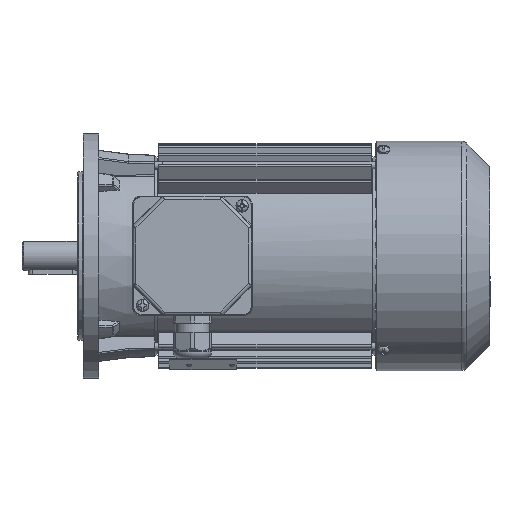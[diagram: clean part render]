
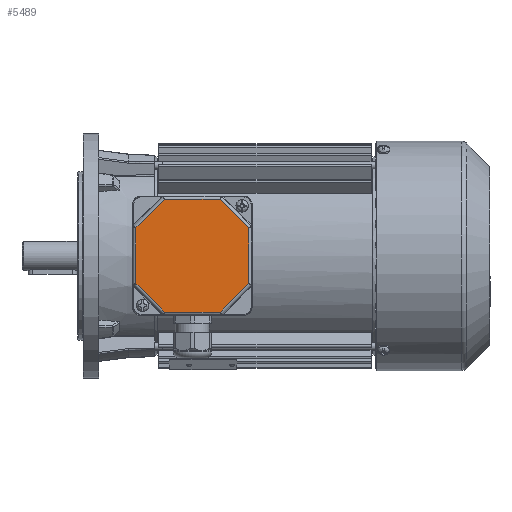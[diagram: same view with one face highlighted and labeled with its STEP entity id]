
A CAD part, top view. The second image highlights one B-rep face of the part: STEP entity #5489.
In plain terms, the highlighted planar face has unit normal (0, 0, 1).
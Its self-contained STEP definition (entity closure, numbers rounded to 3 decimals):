
#5489 = ADVANCED_FACE( '', ( #12012 ), #12013, .T. );
#12012 = FACE_OUTER_BOUND( '', #37611, .T. );
#12013 = PLANE( '', #37612 );
#37611 = EDGE_LOOP( '', ( #72902, #72903, #72904, #72905, #72906, #72907, #72908, #72909 ) );
#37612 = AXIS2_PLACEMENT_3D( '', #72910, #72911, #72912 );
#72902 = ORIENTED_EDGE( '', *, *, #85697, .T. );
#72903 = ORIENTED_EDGE( '', *, *, #90208, .T. );
#72904 = ORIENTED_EDGE( '', *, *, #89331, .T. );
#72905 = ORIENTED_EDGE( '', *, *, #88234, .T. );
#72906 = ORIENTED_EDGE( '', *, *, #90209, .T. );
#72907 = ORIENTED_EDGE( '', *, *, #90210, .T. );
#72908 = ORIENTED_EDGE( '', *, *, #88094, .T. );
#72909 = ORIENTED_EDGE( '', *, *, #90211, .T. );
#72910 = CARTESIAN_POINT( '', ( -39., 39., 12. ) );
#72911 = DIRECTION( '', ( 0., 0., 1. ) );
#72912 = DIRECTION( '', ( 1., 0., 0. ) );
#85697 = EDGE_CURVE( '', #96886, #96884, #96887, .F. );
#88094 = EDGE_CURVE( '', #100921, #99242, #100922, .F. );
#88234 = EDGE_CURVE( '', #101134, #101135, #101136, .T. );
#89331 = EDGE_CURVE( '', #102750, #101134, #102751, .F. );
#90208 = EDGE_CURVE( '', #96884, #102750, #103969, .T. );
#90209 = EDGE_CURVE( '', #101135, #103970, #103971, .F. );
#90210 = EDGE_CURVE( '', #103970, #100921, #103972, .T. );
#90211 = EDGE_CURVE( '', #99242, #96886, #103973, .T. );
#96884 = VERTEX_POINT( '', #115051 );
#96886 = VERTEX_POINT( '', #115053 );
#96887 = LINE( '', #115054, #115055 );
#99242 = VERTEX_POINT( '', #120604 );
#100921 = VERTEX_POINT( '', #126837 );
#100922 = LINE( '', #126838, #126839 );
#101134 = VERTEX_POINT( '', #127625 );
#101135 = VERTEX_POINT( '', #127626 );
#101136 = LINE( '', #127627, #127628 );
#102750 = VERTEX_POINT( '', #133912 );
#102751 = LINE( '', #133913, #133914 );
#103969 = LINE( '', #138921, #138922 );
#103970 = VERTEX_POINT( '', #138923 );
#103971 = LINE( '', #138924, #138925 );
#103972 = LINE( '', #138926, #138927 );
#103973 = LINE( '', #138928, #138929 );
#115051 = CARTESIAN_POINT( '', ( 36.825, 18.255, 12. ) );
#115053 = CARTESIAN_POINT( '', ( 36.825, -18.255, 12. ) );
#115054 = CARTESIAN_POINT( '', ( 36.825, 19.069, 12. ) );
#115055 = VECTOR( '', #153107, 1000. );
#120604 = CARTESIAN_POINT( '', ( 18.255, -36.825, 12. ) );
#126837 = CARTESIAN_POINT( '', ( -18.255, -36.825, 12. ) );
#126838 = CARTESIAN_POINT( '', ( 19.069, -36.825, 12. ) );
#126839 = VECTOR( '', #156300, 1000. );
#127625 = CARTESIAN_POINT( '', ( -18.255, 36.825, 12. ) );
#127626 = CARTESIAN_POINT( '', ( -36.825, 18.255, 12. ) );
#127627 = CARTESIAN_POINT( '', ( -37.401, 17.679, 12. ) );
#127628 = VECTOR( '', #156460, 1000. );
#133912 = CARTESIAN_POINT( '', ( 18.255, 36.825, 12. ) );
#133913 = CARTESIAN_POINT( '', ( -19.069, 36.825, 12. ) );
#133914 = VECTOR( '', #157592, 1000. );
#138921 = CARTESIAN_POINT( '', ( 17.679, 37.401, 12. ) );
#138922 = VECTOR( '', #158441, 1000. );
#138923 = CARTESIAN_POINT( '', ( -36.825, -18.255, 12. ) );
#138924 = CARTESIAN_POINT( '', ( -36.825, -19.069, 12. ) );
#138925 = VECTOR( '', #158442, 1000. );
#138926 = CARTESIAN_POINT( '', ( -17.679, -37.401, 12. ) );
#138927 = VECTOR( '', #158443, 1000. );
#138928 = CARTESIAN_POINT( '', ( 37.401, -17.679, 12. ) );
#138929 = VECTOR( '', #158444, 1000. );
#153107 = DIRECTION( '', ( 0., -1., 0. ) );
#156300 = DIRECTION( '', ( -1., 0., 0. ) );
#156460 = DIRECTION( '', ( -0.707, -0.707, 0. ) );
#157592 = DIRECTION( '', ( 1., 0., 0. ) );
#158441 = DIRECTION( '', ( -0.707, 0.707, 0. ) );
#158442 = DIRECTION( '', ( 0., 1., 0. ) );
#158443 = DIRECTION( '', ( 0.707, -0.707, 0. ) );
#158444 = DIRECTION( '', ( 0.707, 0.707, 0. ) );
